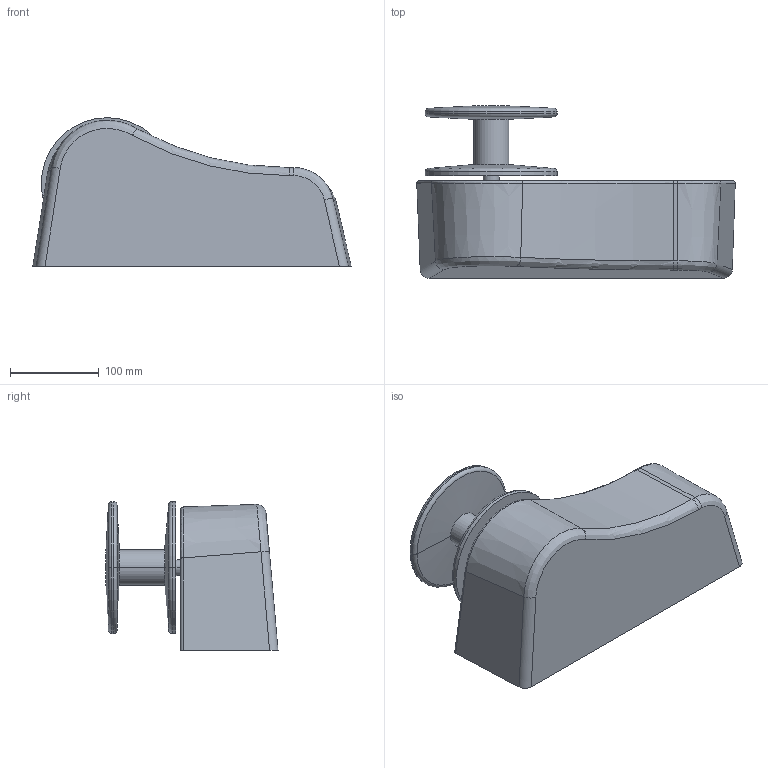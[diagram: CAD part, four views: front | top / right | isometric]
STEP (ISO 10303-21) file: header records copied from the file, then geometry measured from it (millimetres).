
FILE_DESCRIPTION((''),'2;1');
FILE_NAME('ACHILL','2020-07-21T',('mario.candellari'),(''),'PRO/ENGINEER BY PARAMETRIC TECHNOLOGY CORPORATION, 2014090','PRO/ENGINEER BY PARAMETRIC TECHNOLOGY CORPORATION, 2014090','');
FILE_SCHEMA(('CONFIG_CONTROL_DESIGN'));
Length unit declared in the file: millimetre
Products named in the file (1): ACHILL
Bounding box: 359.77 x 194.4 x 168 mm (x, y, z)
Volume: 4957047.9 mm3; surface area: 259540.2 mm2
Topology: 1 solids, 1 shells, 43 faces, 91 edges, 52 vertices
Faces by surface type: cylinder 14, bspline 9, plane 8, torus 6, cone 6
Entity records: 1909 total; most frequent: CARTESIAN_POINT 996, ORIENTED_EDGE 182, DIRECTION 176, EDGE_CURVE 91, AXIS2_PLACEMENT_3D 71, VERTEX_POINT 52, EDGE_LOOP 45, FACE_OUTER_BOUND 43
